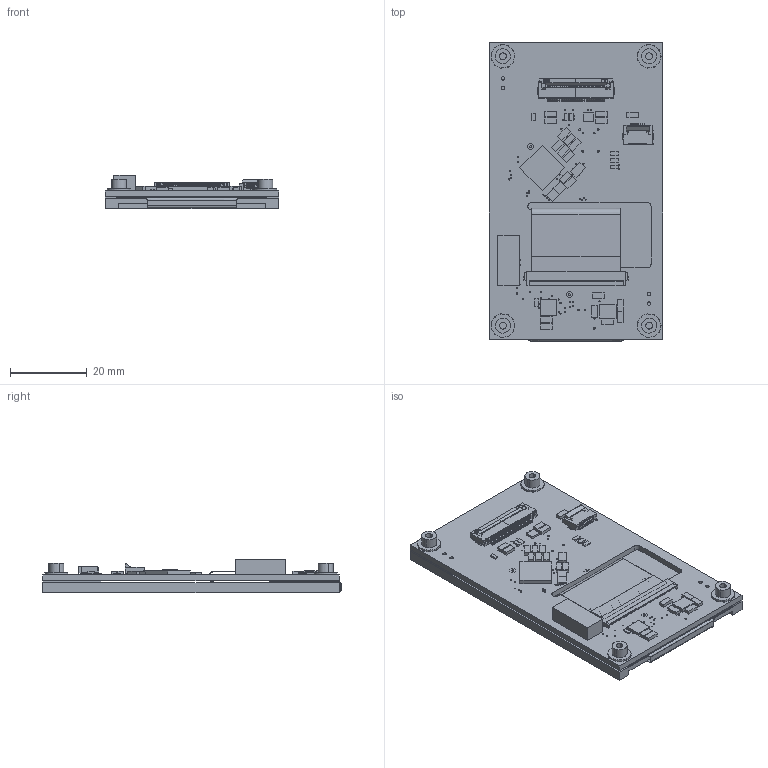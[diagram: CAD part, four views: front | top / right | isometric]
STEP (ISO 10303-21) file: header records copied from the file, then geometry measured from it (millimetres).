
FILE_DESCRIPTION (( 'STEP AP214' ), '1' );
FILE_NAME ('CFA240400E1-030TN.STEP', '2022-10-06T20:55:12', ( '' ), ( '' ), 'SwSTEP 2.0', 'SolidWorks 2021', '' );
FILE_SCHEMA (( 'AUTOMOTIVE_DESIGN' ));
Length unit declared in the file: millimetre
Products named in the file (4): CFAF240400C1-030TN; cfa_10097; CFA240400E1-030TN; VHB_TapeShort
Assembly tree (4 placements, depth 2):
  CFA240400E1-030TN
    cfa_10097
    CFAF240400C1-030TN
    VHB_TapeShort  x2
Bounding box: 45.04 x 77.52 x 8.67 mm (x, y, z)
Volume: 9274.9 mm3; surface area: 27265.1 mm2
Topology: 5 solids, 88 shells, 1843 faces, 10311 edges, 8274 vertices
Faces by surface type: plane 1151, cylinder 528, bspline 164
Entity records: 139938 total; most frequent: CARTESIAN_POINT 49170, ORIENTED_EDGE 14479, DIRECTION 12365, EDGE_CURVE 10299, VERTEX_POINT 8266, LINE 5855, VECTOR 5855, AXIS2_PLACEMENT_3D 3255
